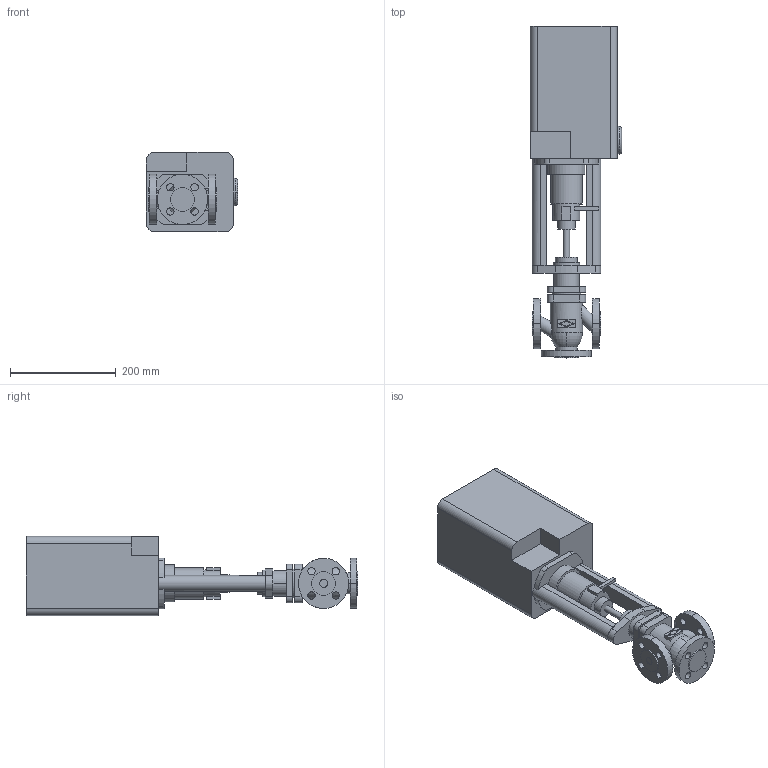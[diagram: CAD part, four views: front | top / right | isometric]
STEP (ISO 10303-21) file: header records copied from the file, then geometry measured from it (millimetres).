
FILE_DESCRIPTION(('OneSpaceDesigner STEP Export'),'2;1');
FILE_NAME('c000002375.stp','2006-09-19T11:50:53',(''),(''),'OneSpace Designer STEP processor for AP214 (Solid Model)','OneSpace Designer 13.20A 18-Aug-2005 (C) CoCreate Software GmbH','');
FILE_SCHEMA(('AUTOMOTIVE_DESIGN { 1 0 10303 214 1 1 1 1 }'));
Length unit declared in the file: millimetre
Products named in the file (2): 1; 2
Bounding box: 173 x 629 x 150 mm (x, y, z)
Volume: 7582579.9 mm3; surface area: 387454.6 mm2
Topology: 2 solids, 2 shells, 198 faces, 504 edges, 336 vertices
Faces by surface type: cylinder 98, plane 96, torus 4
Entity records: 5700 total; most frequent: CARTESIAN_POINT 1091, ORIENTED_EDGE 1008, DIRECTION 869, EDGE_CURVE 504, VERTEX_POINT 336, AXIS2_PLACEMENT_3D 299, VECTOR 271, LINE 271
